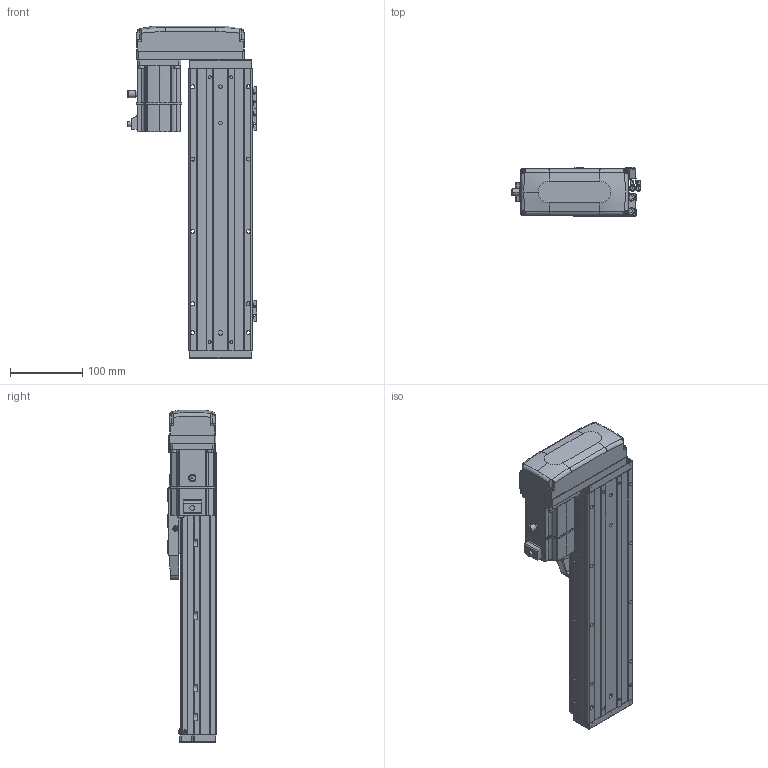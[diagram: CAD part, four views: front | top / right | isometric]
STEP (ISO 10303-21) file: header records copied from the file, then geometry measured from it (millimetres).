
FILE_DESCRIPTION (( 'STEP AP203' ), '1' );
FILE_NAME ('CTHA86-200-BR-M20-C4L.step', '2022-04-26T00:59:10', ( '微软用户' ), ( '微软中国' ), 'SwSTEP 2.0', 'SolidWorks 2020', '' );
FILE_SCHEMA (( 'CONFIG_CONTROL_DESIGN' ));
Length unit declared in the file: millimetre
Products named in the file (21): GBT70.1 M5℅16; CTHA86-030; KTHA86-001_390; GB¨uT 70.2-M3¡Á5_M3¡Á6; GBT 70.1-M3×16; GBT 70.3-M3℅6; KTHA86-004; EE_SX911P_R; GBT 70.1-M3℅6; CTHA86-015-1_CTHA86-015-2; KTHA86-005; CTHA60-017; CTHA60-016; CTHA86-033; CTHA60-021; _X2_4E0983F1_X0_200W_1; CTHA86-200-BR-M20-C4L; GBT77-2000 M3×3; CTHA86-002; GBT 70.1-M3×20; CTHA86-031
Assembly tree (66 placements, depth 2):
  CTHA86-200-BR-M20-C4L
    KTHA86-001_390
    KTHA86-004
    KTHA86-005
    GB¨uT 70.2-M3¡Á5_M3¡Á6  x10
    EE_SX911P_R  x3
    CTHA60-017  x3
    CTHA60-021  x2
    GBT77-2000 M3×3  x6
    GBT 70.1-M3×20
    GBT70.1 M5℅16  x14
    GBT 70.1-M3×16  x5
    GBT 70.1-M3℅6  x6
    CTHA60-016  x2
    _X2_4E0983F1_X0_200W_1
    CTHA86-002
    CTHA86-031
    CTHA86-030  x2
    GBT 70.3-M3℅6  x4
    CTHA86-015-1_CTHA86-015-2
    CTHA86-033
Bounding box: 178.52 x 68 x 459 mm (x, y, z)
Volume: 2202888.6 mm3; surface area: 399785.3 mm2
Topology: 68 solids, 68 shells, 2706 faces, 6428 edges, 3952 vertices
Faces by surface type: plane 1415, cylinder 699, cone 361, torus 132, bspline 75, sphere 24
Entity records: 46497 total; most frequent: CARTESIAN_POINT 9059, DIRECTION 7189, ORIENTED_EDGE 6956, EDGE_CURVE 3478, AXIS2_PLACEMENT_3D 2466, VECTOR 2257, LINE 2257, VERTEX_POINT 2184
